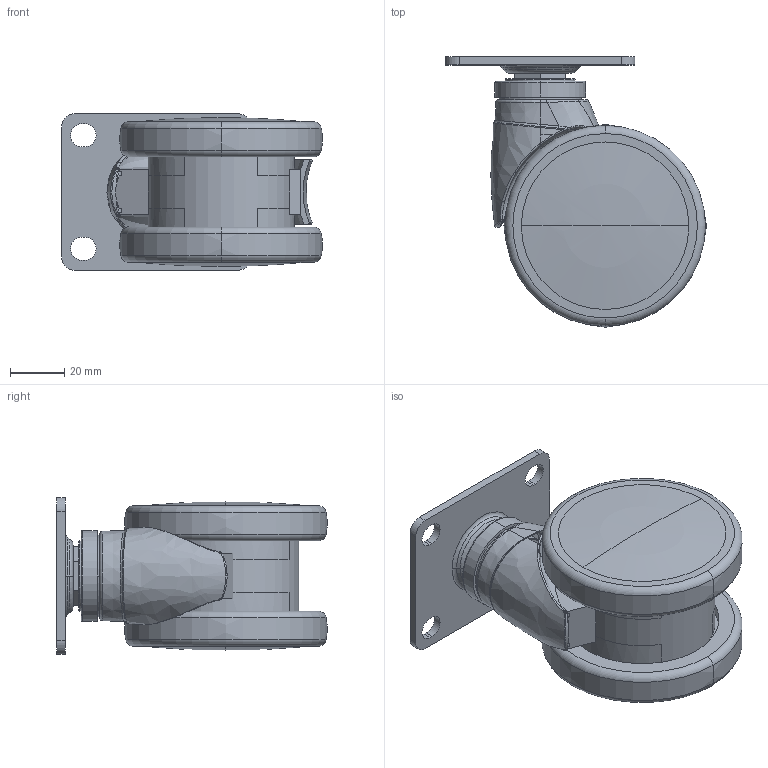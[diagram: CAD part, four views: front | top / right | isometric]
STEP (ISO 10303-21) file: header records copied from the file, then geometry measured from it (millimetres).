
FILE_DESCRIPTION((''),'2;1');
FILE_NAME('E19013-57111_ASM_ASM','2022-09-21T',('lenovo'),(''),'PRO/ENGINEER BY PARAMETRIC TECHNOLOGY CORPORATION, 2010280','PRO/ENGINEER BY PARAMETRIC TECHNOLOGY CORPORATION, 2010280','');
FILE_SCHEMA(('CONFIG_CONTROL_DESIGN'));
Length unit declared in the file: millimetre
Products named in the file (11): YILIAOKE_26; 61902_3; GAIZI_4; E1913-052_2; ____1-1235_1; _____3; ____1-4243_1; 11_ASM_2_ASM; E1913-201_1; E19013-57_ASM_4_ASM; E19013-57111_ASM_ASM
Assembly tree (11 placements, depth 4):
  E19013-57111_ASM_ASM
    E19013-57_ASM_4_ASM
      YILIAOKE_26
      61902_3
      GAIZI_4
      E1913-052_2
      11_ASM_2_ASM  x2
        ____1-1235_1
        _____3
        ____1-4243_1
      E1913-201_1
Bounding box: 96.45 x 99.95 x 58 mm (x, y, z)
Volume: 117733.3 mm3; surface area: 89401.4 mm2
Topology: 10 solids, 13 shells, 398 faces, 962 edges, 608 vertices
Faces by surface type: plane 111, bspline 83, cylinder 80, torus 76, cone 34, sphere 12, extrusion 2
Entity records: 14074 total; most frequent: CARTESIAN_POINT 6487, ORIENTED_EDGE 1584, DIRECTION 1491, EDGE_CURVE 797, AXIS2_PLACEMENT_3D 632, VERTEX_POINT 512, EDGE_LOOP 366, CIRCLE 356
